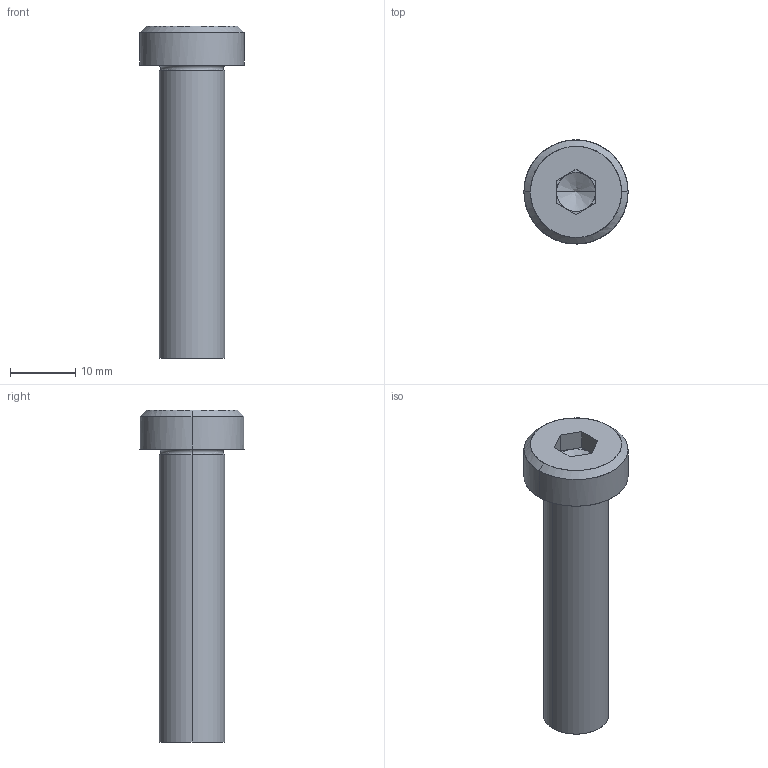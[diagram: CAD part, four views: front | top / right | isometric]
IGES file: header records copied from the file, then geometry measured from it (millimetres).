
Global section: file name: E:\UnigraphicsGraphicData\MISUMI_PRESS-PARTS\IGES\3d_sbtcn10-45_05140_r00.igs; native system: NX V5.0; preprocessor: UGS NX IGES V5.0; author: MISUMI; date: 20110105.162452; units: millimetre
Bounding box: 16 x 16 x 51 mm (x, y, z)
Surface area: 2472.4 mm2 (no closed solid volume)
Topology: 0 solids, 0 shells, 34 faces, 180 edges, 176 vertices
Faces by surface type: bspline 34
